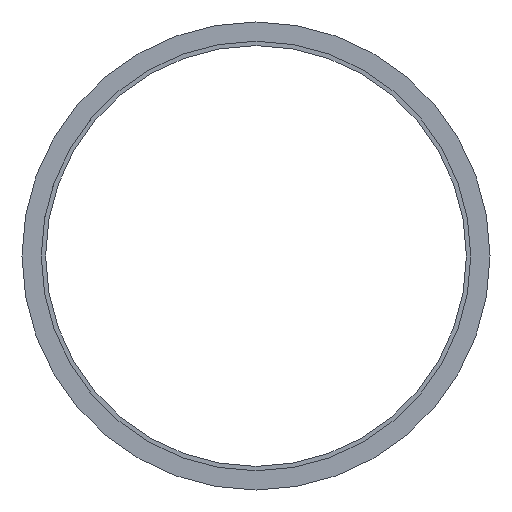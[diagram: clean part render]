
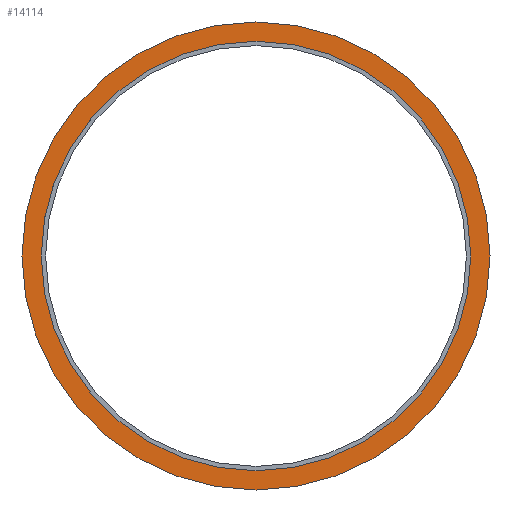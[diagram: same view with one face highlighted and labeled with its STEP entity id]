
A CAD part, left-side view. The second image highlights one B-rep face of the part: STEP entity #14114.
In plain terms, the highlighted planar face has unit normal (-1, 0, 0).
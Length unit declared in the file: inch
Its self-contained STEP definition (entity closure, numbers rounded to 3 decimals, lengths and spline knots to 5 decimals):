
#14072=CARTESIAN_POINT('',(0.125,3.955,0.0));
#14073=VERTEX_POINT('',#14072);
#14074=CARTESIAN_POINT('',(0.125,0.0,0.0));
#14075=DIRECTION('',(1.0,0.0,0.0));
#14076=DIRECTION('',(0.0,1.0,0.0));
#14077=AXIS2_PLACEMENT_3D('',#14074,#14075,#14076);
#14078=CIRCLE('',#14077,3.955);
#14079=EDGE_CURVE('',#14073,#14073,#14078,.T.);
#14095=CARTESIAN_POINT('',(0.125,4.1325,0.0));
#14096=DIRECTION('',(-1.0,0.0,0.0));
#14097=DIRECTION('',(0.0,0.0,1.0));
#14098=AXIS2_PLACEMENT_3D('',#14095,#14096,#14097);
#14099=PLANE('',#14098);
#14100=CARTESIAN_POINT('',(0.125,4.31,0.0));
#14101=VERTEX_POINT('',#14100);
#14102=CARTESIAN_POINT('',(0.125,0.0,0.0));
#14103=DIRECTION('',(1.0,0.0,0.0));
#14104=DIRECTION('',(0.0,1.0,0.0));
#14105=AXIS2_PLACEMENT_3D('',#14102,#14103,#14104);
#14106=CIRCLE('',#14105,4.31);
#14107=EDGE_CURVE('',#14101,#14101,#14106,.T.);
#14108=ORIENTED_EDGE('',*,*,#14107,.F.);
#14109=EDGE_LOOP('',(#14108));
#14110=FACE_OUTER_BOUND('',#14109,.T.);
#14111=ORIENTED_EDGE('',*,*,#14079,.T.);
#14112=EDGE_LOOP('',(#14111));
#14113=FACE_BOUND('',#14112,.T.);
#14114=ADVANCED_FACE('',(#14110,#14113),#14099,.T.);
